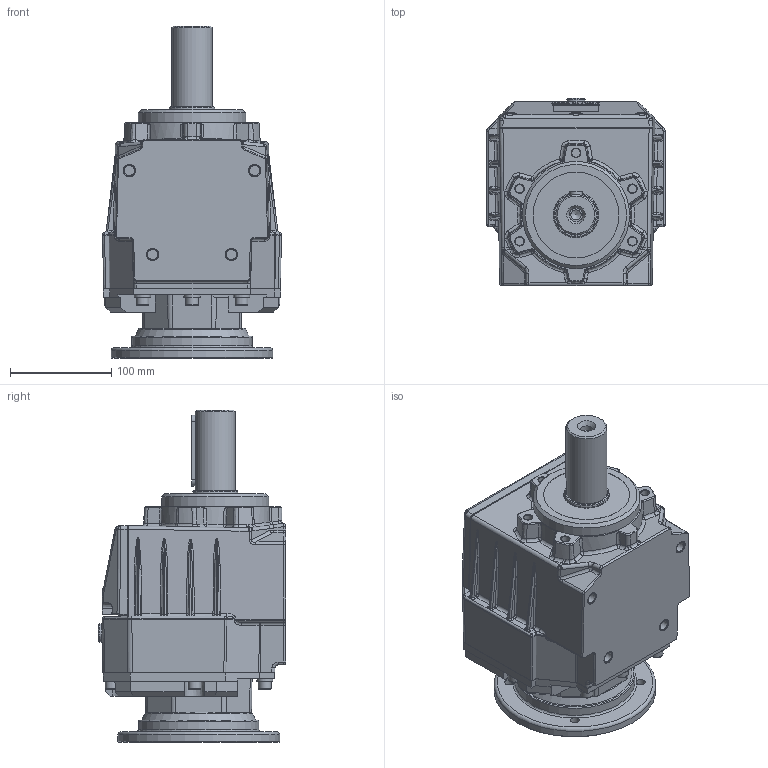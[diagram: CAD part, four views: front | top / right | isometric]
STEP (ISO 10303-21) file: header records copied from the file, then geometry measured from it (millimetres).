
FILE_DESCRIPTION( ( 'Unknown' ), '1' );
FILE_NAME( 'E:/services/configuratordownloads/customers/HYDROMEC/COASSIALI/download/5C2B4396C7C0C7FA1E1E10B453CAA8/STEP/5C2B4396C7C0C7FA1E1E10B453CAA8.3d.stp', 'Unknown', ( 'Unknown' ), ( 'Unknown' ), 'PSStep 10.1', 'Unknown', ' ' );
FILE_SCHEMA( ( 'AUTOMOTIVE_DESIGN { 1 0 10303 214 1 1 1 1 }' ) );
Length unit declared in the file: millimetre
Products named in the file (1): C618800
Bounding box: 176.85 x 185 x 328.4 mm (x, y, z)
Volume: 5142596.5 mm3; surface area: 279746.8 mm2
Topology: 1 solids, 23 shells, 1190 faces, 2834 edges, 1748 vertices
Faces by surface type: plane 533, cylinder 297, bspline 196, cone 90, torus 40, sphere 22, revolution 8, extrusion 4
Full cylindrical faces by diameter (mm): 4.917 x6, 6 x6, 6.5 x1, 7.175 x6, 8 x1, 8.376 x5, 8.5 x8, 9 x4, 10 x6, 10.106 x5, 11.3 x1, 11.445 x2, 12.75 x8, 13 x1, 13.5 x1, 18 x1, 19 x1, 20 x1, 22 x1, 40 x1, 45 x2, 62 x1, 68 x1, 85 x1, 103 x1, 106 x1, 107 x1, 110 x1, 119 x1, 160 x1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
Entity records: 54065 total; most frequent: CARTESIAN_POINT 19739, ORIENTED_EDGE 5186, DIRECTION 4542, EDGE_CURVE 2593, VERTEX_POINT 1679, AXIS2_PLACEMENT_3D 1584, EDGE_LOOP 1434, VECTOR 1366
